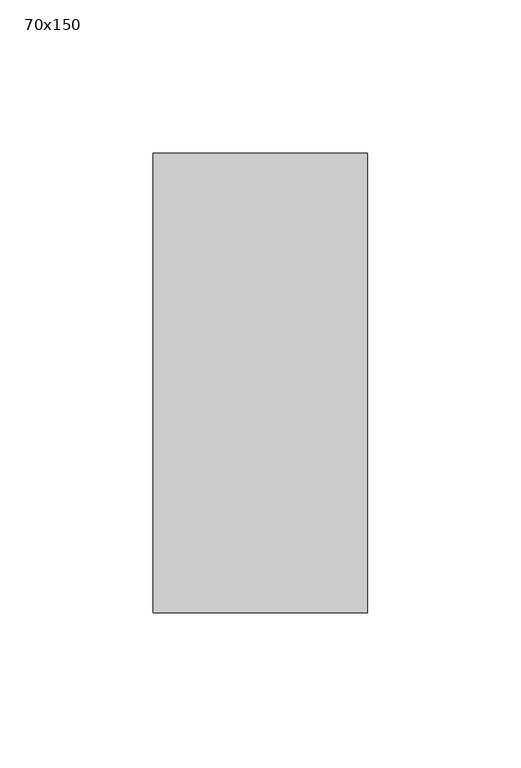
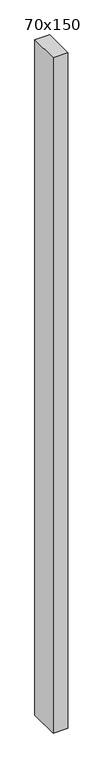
"""IFC4 building model written with IfcOpenShell, lengths in millimetres: member geometry, 長方形のマリオン : 70x150."""

from ifc_helpers import new_model, si_unit, frame, origin, place, context, project, spatial, polyline, outline, extrude, source, transform, mapped, element, save


def member_70x150_d36ba8ce(model_context):
    return source(origin(), model_context, "Body", "SweptSolid", [
        extrude(outline(polyline([(35.0, 75.0), (35.0, -75.0), (-35.0, -75.0), (-35.0, 75.0), (35.0, 75.0)])), frame((0.0, 0.0, -3395.0), z_axis=(0.0, 0.0, 1.0), x_axis=(1.0, 0.0, 0.0)), (0.0, 0.0, 1.0), 3395.0),
    ])


if __name__ == "__main__":
    model = new_model("IFC4")
    model_context = context("Model", 3, world=origin())
    ifc_project = project(units=[si_unit("LENGTHUNIT", "METRE", prefix="MILLI")], contexts=[model_context])
    site = spatial("IfcSite", under=ifc_project)
    building = spatial("IfcBuilding", under=site)
    placement = place(None, origin())
    member_70x150_shape = member_70x150_d36ba8ce(model_context)
    element("IfcMember", 1, ObjectType="長方形のマリオン : 70x150", at=placement, inside=building, context=model_context, shape_type="MappedRepresentation", body=[
        mapped(member_70x150_shape, transform((0.0, 0.0, 0.0), x_axis=(1.0, 0.0, 0.0), y_axis=(0.0, 1.0, 0.0), z_axis=(0.0, 0.0, 1.0))),
    ])
    save(model, "model.ifc")
